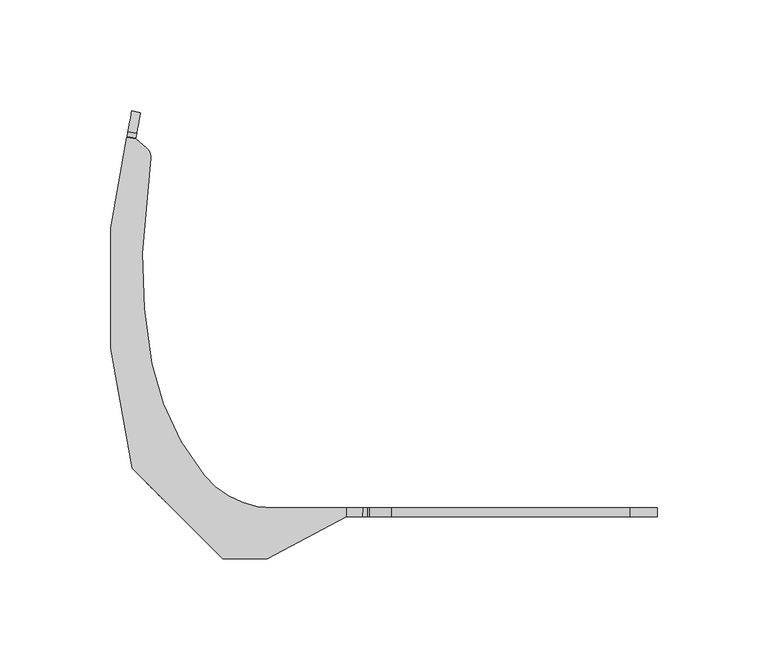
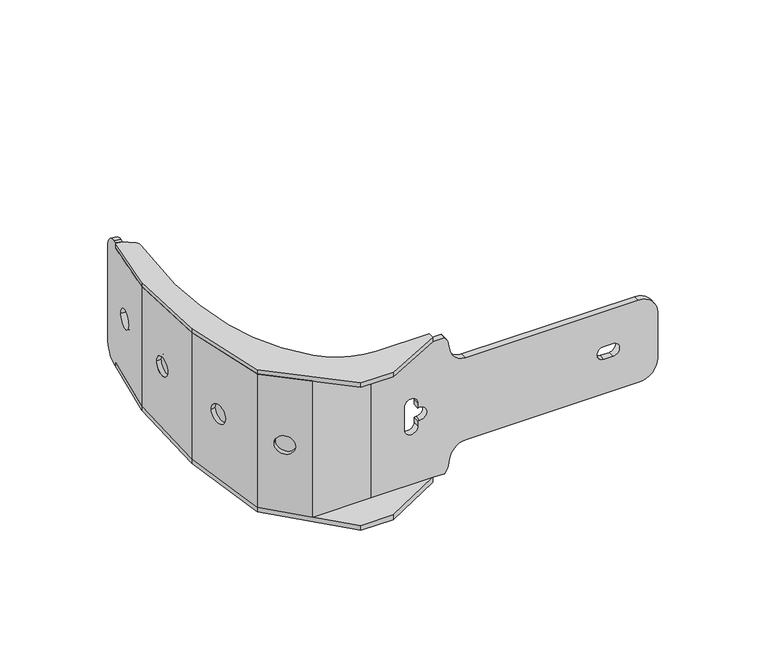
"""IFC4 building model written with IfcOpenShell, lengths in millimetres: proxy geometry, d&b U-Series U5 Horizonzal Bracket : d&b U-Series U5 Horizontal Bracket."""

import ifcopenshell
import ifcopenshell.guid

model = None  # the IFC model being written
_history = None  # IfcOwnerHistory: only IFC2X3 demands one
_inside = {}  # id of a spatial element -> (the spatial element, [elements in it])
_under = {}  # id of a project, library or spatial element -> (it, [spatial elements below it])
_declared = {}  # id of a project -> (the project, [libraries it declares])
_typed = {}  # id of a type object -> (the type object, [elements of that type])
_made_of = {}  # id of a material, layer set ... -> (it, [elements and type objects made of it])


def new_model(schema):
    """Start an empty IFC model of exactly this schema.

    Asked for "IFC4X3", IfcOpenShell would pick the latest addendum, in which some entities
    have other attributes; the version numbers below select the first issue.
    IFC2X3 requires an IfcOwnerHistory on every rooted entity: one is made here for all.
    """
    global model, _history
    if schema == "IFC4X3":
        model = ifcopenshell.file(schema_version=(4, 3, 0, 0))
    else:
        model = ifcopenshell.file(schema=schema)
    _inside.clear()
    _under.clear()
    _declared.clear()
    _typed.clear()
    _made_of.clear()
    _history = None
    if model.schema == "IFC2X3":
        org = make("IfcOrganization", Name="unknown")
        user = make(
            "IfcPersonAndOrganization",
            ThePerson=make("IfcPerson", FamilyName="unknown"),
            TheOrganization=org,
        )
        app = make(
            "IfcApplication",
            ApplicationDeveloper=org,
            Version="unknown",
            ApplicationFullName="unknown",
            ApplicationIdentifier="unknown",
        )
        _history = make(
            "IfcOwnerHistory",
            OwningUser=user,
            OwningApplication=app,
            ChangeAction="ADDED",
            CreationDate=0,
        )
    return model


def make(cls, **values):
    """One entity of the class cls with the attributes given. An attribute that is None is left unset."""
    return model.create_entity(
        cls, **{name: value for name, value in values.items() if value is not None}
    )


def rooted(cls, **values):
    """An entity with a GlobalId (a new one), such as an element, a storey or a relation."""
    return make(cls, GlobalId=ifcopenshell.guid.new(), OwnerHistory=_history, **values)


def si_unit(unit_type, name, prefix=None):
    """IfcSIUnit, for example si_unit("LENGTHUNIT", "METRE", prefix="MILLI")."""
    return make("IfcSIUnit", UnitType=unit_type, Prefix=prefix, Name=name)


def assignment(units):
    """IfcUnitAssignment: the units of a project."""
    return None if units is None else make("IfcUnitAssignment", Units=units)


def point(xyz):
    """IfcCartesianPoint."""
    return None if xyz is None else make("IfcCartesianPoint", Coordinates=xyz)


def direction(xyz):
    """IfcDirection."""
    return None if xyz is None else make("IfcDirection", DirectionRatios=xyz)


def frame(location, z_axis=None, x_axis=None):
    """IfcAxis2Placement3D, a coordinate frame: its origin and axes. An axis left out is left unset."""
    return make(
        "IfcAxis2Placement3D",
        Location=point(location),
        Axis=direction(z_axis),
        RefDirection=direction(x_axis),
    )


def frame_2d(location, x_axis=None):
    """IfcAxis2Placement2D, a coordinate frame in the plane: its origin and x axis."""
    return make(
        "IfcAxis2Placement2D", Location=point(location), RefDirection=direction(x_axis)
    )


def origin():
    """The frame at (0, 0, 0) with its axes left unset."""
    return frame((0.0, 0.0, 0.0))


def place(relative_to, where):
    """IfcLocalPlacement: puts the frame where relative to a parent placement (None: the world)."""
    return make(
        "IfcLocalPlacement", PlacementRelTo=relative_to, RelativePlacement=where
    )


def context(
    kind, dimensions, precision=None, world=None, true_north=None, identifier=None
):
    """IfcGeometricRepresentationContext, for example the 3D "Model" context."""
    return make(
        "IfcGeometricRepresentationContext",
        ContextIdentifier=identifier,
        ContextType=kind,
        CoordinateSpaceDimension=dimensions,
        Precision=precision,
        WorldCoordinateSystem=world,
        TrueNorth=true_north,
    )


def project(units=None, contexts=None):
    """IfcProject with its units and contexts."""
    return rooted(
        "IfcProject",
        Name="project",
        RepresentationContexts=contexts,
        UnitsInContext=assignment(units),
    )


def spatial(cls, under=None, at=None, **own):
    """A site, building, storey or space (cls), placed at a placement, below another one or the project."""
    s = rooted(cls, ObjectPlacement=at, **own)
    if under is not None:
        _under.setdefault(under.id(), (under, []))[1].append(s)
    return s


def polyline(points):
    """IfcPolyline through the points."""
    return make("IfcPolyline", Points=[point(p) for p in points])


def circle_curve(where, radius):
    """IfcCircle in the frame where."""
    return make("IfcCircle", Position=where, Radius=radius)


def ellipse_curve(where, semi_axis1, semi_axis2):
    """IfcEllipse in the frame where."""
    return make(
        "IfcEllipse", Position=where, SemiAxis1=semi_axis1, SemiAxis2=semi_axis2
    )


def trimmed(basis, trim1, trim2, sense, master):
    """IfcTrimmedCurve: the piece of a basis curve between two trims."""
    return make(
        "IfcTrimmedCurve",
        BasisCurve=basis,
        Trim1=trim1,
        Trim2=trim2,
        SenseAgreement=sense,
        MasterRepresentation=master,
    )


def segment(curve, same_sense, transition):
    """IfcCompositeCurveSegment."""
    return make(
        "IfcCompositeCurveSegment",
        Transition=transition,
        SameSense=same_sense,
        ParentCurve=curve,
    )


def composite_curve(segments, self_intersect=None):
    """IfcCompositeCurve: segments joined end to end."""
    return make("IfcCompositeCurve", Segments=segments, SelfIntersect=self_intersect)


def outline(outer, holes=None, kind="AREA"):
    """IfcArbitraryClosedProfileDef: a profile drawn as a closed curve; with holes, ...WithVoids."""
    if holes is None:
        return make("IfcArbitraryClosedProfileDef", ProfileType=kind, OuterCurve=outer)
    return make(
        "IfcArbitraryProfileDefWithVoids",
        ProfileType=kind,
        OuterCurve=outer,
        InnerCurves=holes,
    )


def extrude(swept, where, along, depth):
    """IfcExtrudedAreaSolid: the profile swept, set in the frame where, extruded along a direction by depth."""
    return make(
        "IfcExtrudedAreaSolid",
        SweptArea=swept,
        Position=where,
        ExtrudedDirection=direction(along),
        Depth=depth,
    )


def shape(context_of_items, identifier, shape_type, items):
    """IfcShapeRepresentation: the items that make up one representation, for example the "Body"."""
    return make(
        "IfcShapeRepresentation",
        ContextOfItems=context_of_items,
        RepresentationIdentifier=identifier,
        RepresentationType=shape_type,
        Items=items,
    )


def source(mapping_origin, context_of_items, identifier, shape_type, items):
    """IfcRepresentationMap: a shape defined once, which mapped items show again and again."""
    return make(
        "IfcRepresentationMap",
        MappingOrigin=mapping_origin,
        MappedRepresentation=shape(context_of_items, identifier, shape_type, items),
    )


def transform(
    local_origin,
    x_axis=None,
    y_axis=None,
    z_axis=None,
    scale=None,
    scale2=None,
    scale3=None,
    uniform=True,
):
    """IfcCartesianTransformationOperator3D, or its non-uniform kind. x_axis, y_axis, z_axis: its Axis1, 2, 3."""
    if uniform:
        return make(
            "IfcCartesianTransformationOperator3D",
            Axis1=direction(x_axis),
            Axis2=direction(y_axis),
            LocalOrigin=point(local_origin),
            Scale=scale,
            Axis3=direction(z_axis),
        )
    return make(
        "IfcCartesianTransformationOperator3DnonUniform",
        Axis1=direction(x_axis),
        Axis2=direction(y_axis),
        LocalOrigin=point(local_origin),
        Scale=scale,
        Axis3=direction(z_axis),
        Scale2=scale2,
        Scale3=scale3,
    )


def mapped(mapping_source, mapping_target):
    """IfcMappedItem: shows the shape of a source again, moved by a transform."""
    return make(
        "IfcMappedItem", MappingSource=mapping_source, MappingTarget=mapping_target
    )


def made_of(thing, what):
    """Note that an element or type object is made of a material, layer set ...; save() writes the relation."""
    if what is not None:
        _made_of.setdefault(what.id(), (what, []))[1].append(thing)
    return thing


def element(
    cls,
    number,
    at=None,
    inside=None,
    cuts=None,
    type_object=None,
    material=None,
    context=None,
    identifier="Body",
    shape_type=None,
    held_by="IfcProductDefinitionShape",
    body=None,
    shapes=None,
    **own,
):
    """One element of the class cls, such as IfcWall. Its Tag is "e" and its number.

    at: its placement. inside: the storey or other place that contains it. cuts: it is an
    opening in that element (IfcRelVoidsElement). A single representation is given by context,
    identifier, shape_type and body (its items); several are given by shapes. held_by: the class
    of the entity that holds the representations. save() writes the other relations.
    """
    e = rooted(cls, Tag="e%d" % number, ObjectPlacement=at, **own)
    if body is not None:
        shapes = [shape(context, identifier, shape_type, body)]
    if shapes is not None:
        e.Representation = make(held_by, Representations=shapes)
    if inside is not None:
        _inside.setdefault(inside.id(), (inside, []))[1].append(e)
    if cuts is not None:
        rooted(
            "IfcRelVoidsElement", RelatingBuildingElement=cuts, RelatedOpeningElement=e
        )
    if type_object is not None:
        _typed.setdefault(type_object.id(), (type_object, []))[1].append(e)
    return made_of(e, material)


def aggregate(whole, parts):
    """IfcRelAggregates: a whole, such as a stair, and the parts it consists of."""
    return rooted("IfcRelAggregates", RelatingObject=whole, RelatedObjects=parts)


def save(model, path):
    """Write the relations noted so far, then the file.

    IfcRelAggregates (storeys below a building ...), IfcRelContainedInSpatialStructure (elements
    in a storey), IfcRelDefinesByType, IfcRelAssociatesMaterial and IfcRelDeclares: one each for
    every whole, place, type object, material and project.
    """
    for whole, parts in _under.values():
        aggregate(whole, parts)
    for where, things in _inside.values():
        rooted(
            "IfcRelContainedInSpatialStructure",
            RelatedElements=things,
            RelatingStructure=where,
        )
    for kind, things in _typed.values():
        rooted("IfcRelDefinesByType", RelatedObjects=things, RelatingType=kind)
    for what, things in _made_of.values():
        rooted("IfcRelAssociatesMaterial", RelatedObjects=things, RelatingMaterial=what)
    for by, libraries in _declared.values():
        rooted("IfcRelDeclares", RelatingContext=by, RelatedDefinitions=libraries)
    model.write(path)


def plane_surface(at):
    """IfcPlane: the flat surface through the origin of the frame at, square to its z axis."""
    return make("IfcPlane", Position=at)


def cylinder_surface(at, radius):
    """IfcCylindricalSurface: all points at the distance radius from the z axis of the frame at."""
    return make("IfcCylindricalSurface", Position=at, Radius=radius)


def revolved_surface(curve, axis_point, axis_direction):
    """IfcSurfaceOfRevolution: the curve turned about the line through axis_point along axis_direction."""
    return make(
        "IfcSurfaceOfRevolution",
        SweptCurve=make("IfcArbitraryOpenProfileDef", ProfileType="CURVE", Curve=curve),
        AxisPosition=make("IfcAxis1Placement", Location=point(axis_point), Axis=direction(axis_direction)),
    )


def advanced_brep(points, edges, surfaces, faces):
    """IfcAdvancedBrep: a solid bounded by faces that lie on surfaces and meet in shared edges.

    An edge is (start, end): straight between two places in points (the first is 0);
    or (start, end, curve); or (start, end, curve, False) where it runs against its curve.
    A face is (place in surfaces, loops), or (place, loops, False) where it looks against
    its surface's normal. A loop lists edges by number (the first is 1), with a minus sign
    where the edge is run from its end to its start. The first loop is the outer one.
    """
    corners = [point(p) for p in points]
    vertices = [make("IfcVertexPoint", VertexGeometry=c) for c in corners]
    made = []
    for start, end, *more in edges:
        made.append(
            make(
                "IfcEdgeCurve",
                EdgeStart=vertices[start],
                EdgeEnd=vertices[end],
                EdgeGeometry=more[0] if more else make("IfcPolyline", Points=[corners[start], corners[end]]),
                SameSense=more[1] if len(more) > 1 else True,
            )
        )
    hull = []
    for where, loops, *sense in faces:
        bounds = []
        for j, loop in enumerate(loops):
            ring = [make("IfcOrientedEdge", EdgeElement=made[abs(k) - 1], Orientation=k > 0) for k in loop]
            bounds.append(
                make(
                    "IfcFaceOuterBound" if j == 0 else "IfcFaceBound",
                    Bound=make("IfcEdgeLoop", EdgeList=ring),
                    Orientation=True,
                )
            )
        hull.append(make("IfcAdvancedFace", Bounds=bounds, FaceSurface=surfaces[where], SameSense=sense[0] if sense else True))
    return make("IfcAdvancedBrep", Outer=make("IfcClosedShell", CfsFaces=hull))


def communication_devices_53e6d59a(model_context):
    return source(origin(), model_context, "Body", "SolidModel", [
        extrude(outline(composite_curve([segment(polyline([(22.2044879, 0.0), (-38.3705429, 0.0)]), True, "CONTINUOUS"), segment(trimmed(circle_curve(frame_2d((-38.3705429, 10.0)), 10.0), [point((-38.3705429, 0.0))], [point((-48.3616514, 9.5783948))], False, "CARTESIAN"), True, "CONTINUOUS"), segment(polyline([(-48.3616514, 9.5783948), (-48.4584013, 11.8711552), (-45.4610682, 11.999588), (-47.2200383, 53.683288), (31.0539833, 53.683288), (29.2950132, 11.999588), (32.2923463, 11.8711552), (32.1955964, 9.5783948)]), True, "CONTINUOUS"), segment(trimmed(circle_curve(frame_2d((22.2044879, 10.0)), 10.0), [point((32.1955964, 9.5783948))], [point((22.2044879, 0.0))], False, "CARTESIAN"), True, "CONTINUOUS")], self_intersect=False), holes=[composite_curve([segment(trimmed(circle_curve(frame_2d((-8.0830275, 26.735596)), 6.0), [point((-8.0830275, 20.735596))], [point((-8.0830275, 32.735596))], True, "CARTESIAN"), True, "CONTINUOUS"), segment(trimmed(circle_curve(frame_2d((-8.0830275, 26.735596)), 6.0), [point((-8.0830275, 32.735596))], [point((-8.0830275, 20.735596))], True, "CARTESIAN"), True, "CONTINUOUS")], self_intersect=False)]), frame((-142.0489899, 59.1784835, -8.0830275), z_axis=(-0.9848077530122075, 0.17364817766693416, 0.0), x_axis=(0.0, 0.0, -1.0)), (0.0, 0.0, 1.0), 4.0),
        advanced_brep(
        [(-87.8236765, -119.0, -44.5362151), (-122.25, -119.0, -44.5362151), (-122.25, -119.0, 44.5362151), (-87.8236765, -119.0, 44.5362151), (-123.9068542, -123.0, -44.7076112), (-87.8236765, -123.0, -44.7076112), (-87.8236765, -123.0, 44.7076112), (-123.9068542, -123.0, 44.7076112), (-142.0489899, -99.2010101, -43.6878481), (-142.0489899, -99.2010101, 43.6878481), (-151.310226, -46.67793, -41.4372863), (-151.310226, -46.67793, 41.4372863), (-151.310226, 6.3000501, -39.1672326), (-151.310226, 6.3000501, 39.1672326), (-155.310226, 7.005358, -39.1370108), (-155.310226, -47.0278846, -41.4522815), (-155.310226, -47.0278846, 41.4522815), (-155.310226, 7.005358, 39.1370108), (-155.310226, -20.9926157, 0.0), (-155.310226, -8.9926157, 0.0), (-145.7692166, -101.1376376, -43.7708307), (-145.7692166, -101.1376376, 43.7708307), (-150.4197085, -74.7633878, 0.0), (-152.5034866, -62.9456948, 0.0), (-139.2286947, -107.6781595, 0.0), (-130.7434133, -116.1634409, 0.0), (-152.310226, -8.9926157, 0.0), (-152.310226, -20.9926157, 0.0), (-149.5490633, -62.4247503, 0.0), (-147.4652852, -74.2424433, 0.0), (-128.622093, -114.0421206, 0.0), (-137.1073744, -105.5568392, 0.0)],
        [
            (0, 1),
            (1, 2),
            (2, 3),
            (3, 0),
            (4, 5),
            (5, 6),
            (6, 7),
            (7, 4),
            (3, 6),
            (5, 0),
            (1, 8),
            (8, 9),
            (9, 2),
            (8, 10),
            (10, 11),
            (11, 9),
            (10, 12),
            (12, 13),
            (13, 11),
            (14, 15),
            (15, 16),
            (16, 17),
            (17, 14),
            (18, 19, circle_curve(frame((-155.310226, -14.9926157, 0.0), z_axis=(1.0, 0.0, 0.0), x_axis=(0.0, -1.0, 0.0)), 6.0)),
            (19, 18, circle_curve(frame((-155.310226, -14.9926157, 0.0), z_axis=(1.0, 0.0, 0.0), x_axis=(0.0, -1.0, 0.0)), 6.0)),
            (15, 20),
            (20, 21),
            (21, 16),
            (22, 23, circle_curve(frame((-151.4615975, -68.8545413, 0.0), z_axis=(0.9848077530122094, 0.17364817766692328, 0.0), x_axis=(0.17364817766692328, -0.9848077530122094, 0.0)), 6.0)),
            (23, 22, circle_curve(frame((-151.4615975, -68.8545413, 0.0), z_axis=(0.9848077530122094, 0.17364817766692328, 0.0), x_axis=(0.17364817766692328, -0.9848077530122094, 0.0)), 6.0)),
            (7, 21),
            (20, 4),
            (24, 25, circle_curve(frame((-134.986054, -111.9208002, 0.0), z_axis=(0.7071067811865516, 0.7071067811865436, 0.0), x_axis=(-0.7071067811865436, 0.7071067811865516, 0.0)), 6.0)),
            (25, 24, circle_curve(frame((-134.986054, -111.9208002, 0.0), z_axis=(0.7071067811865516, 0.7071067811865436, 0.0), x_axis=(-0.7071067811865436, 0.7071067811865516, 0.0)), 6.0)),
            (14, 12),
            (13, 17),
            (26, 27, circle_curve(frame((-152.310226, -14.9926157, 0.0), z_axis=(-1.0, 0.0, 0.0), x_axis=(0.0, -1.0, 0.0)), 6.0)),
            (27, 26, circle_curve(frame((-152.310226, -14.9926157, 0.0), z_axis=(-1.0, 0.0, 0.0), x_axis=(0.0, -1.0, 0.0)), 6.0)),
            (27, 18),
            (19, 26),
            (28, 29, circle_curve(frame((-148.5071743, -68.3335968, 0.0), z_axis=(-0.9848077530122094, -0.17364817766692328, 0.0), x_axis=(0.17364817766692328, -0.9848077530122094, 0.0)), 6.0)),
            (29, 28, circle_curve(frame((-148.5071743, -68.3335968, 0.0), z_axis=(-0.9848077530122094, -0.17364817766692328, 0.0), x_axis=(0.17364817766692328, -0.9848077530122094, 0.0)), 6.0)),
            (29, 22),
            (23, 28),
            (30, 31, circle_curve(frame((-132.8647337, -109.7994799, 0.0), z_axis=(-0.7071067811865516, -0.7071067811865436, 0.0), x_axis=(-0.7071067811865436, 0.7071067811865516, 0.0)), 6.0)),
            (31, 30, circle_curve(frame((-132.8647337, -109.7994799, 0.0), z_axis=(-0.7071067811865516, -0.7071067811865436, 0.0), x_axis=(-0.7071067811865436, 0.7071067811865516, 0.0)), 6.0)),
            (31, 24),
            (25, 30),
        ],
        [
            plane_surface(frame((-87.8236765, -119.0, -45.0), z_axis=(0.0, 1.0, 0.0), x_axis=(0.0, 0.0, 1.0))),
            plane_surface(frame((-123.9068542, -123.0, -45.0), z_axis=(0.0, -1.0, 0.0), x_axis=(0.0, 0.0, 1.0))),
            plane_surface(frame((-87.8236765, -123.0, -45.0), z_axis=(1.0, 0.0, 0.0), x_axis=(0.0, 0.0, 1.0))),
            plane_surface(frame((-122.25, -119.0, -45.0), z_axis=(0.7071067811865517, 0.7071067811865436, 0.0), x_axis=(0.0, 0.0, 1.0))),
            plane_surface(frame((-142.0489899, -99.2010101, -45.0), z_axis=(0.9848077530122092, 0.17364817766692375, 0.0), x_axis=(0.0, 0.0, 1.0))),
            plane_surface(frame((-151.310226, -46.67793, -45.0), z_axis=(1.0, 0.0, 0.0), x_axis=(0.0, 0.0, 1.0))),
            plane_surface(frame((-155.310226, 7.005358, -45.0), z_axis=(-1.0, 0.0, 0.0), x_axis=(0.0, 0.0, 1.0))),
            plane_surface(frame((-155.310226, -47.0278846, -45.0), z_axis=(-0.9848077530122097, -0.1736481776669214, 0.0), x_axis=(0.0, 0.0, 1.0))),
            plane_surface(frame((-145.7692166, -101.1376376, -45.0), z_axis=(-0.7071067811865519, -0.7071067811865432, 0.0), x_axis=(0.0, 0.0, 1.0))),
            plane_surface(frame((-32.0280223, -124.4876692, -44.7713563), z_axis=(0.0, 0.04280972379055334, -0.999083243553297), x_axis=(-1.0, 0.0, 0.0))),
            plane_surface(frame((-32.0280223, 97.9347514, 35.2407767), z_axis=(0.0, 0.042809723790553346, 0.999083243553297), x_axis=(-1.0, 0.0, 0.0))),
            plane_surface(frame((-151.310226, 6.3000501, -45.0), z_axis=(0.17364817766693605, 0.9848077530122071, 0.0), x_axis=(0.0, 0.0, 1.0))),
            plane_surface(frame((-152.310226, -20.9926157, 0.0), z_axis=(-1.0, 0.0, 0.0), x_axis=(0.0, 0.0, 1.0))),
            revolved_surface(polyline([(-155.310226, -20.9926157, 0.0), (-152.310226, -20.9926157, 0.0)]), (-152.310226, -14.9926157, 0.0), (-1.0, 0.0, 0.0)),
            plane_surface(frame((-147.4652852, -74.2424433, 0.0), z_axis=(-0.9848077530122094, -0.17364817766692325, 0.0), x_axis=(0.0, 0.0, 1.0))),
            revolved_surface(polyline([(-150.41970849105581, -74.76338785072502, 0.0), (-147.4652851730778, -74.2424433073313, 0.0)]), (-148.5071743, -68.3335968, 0.0), (-0.9848077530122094, -0.17364817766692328, 0.0)),
            plane_surface(frame((-137.1073744, -105.5568392, 0.0), z_axis=(-0.7071067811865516, -0.7071067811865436, 0.0), x_axis=(0.0, 0.0, -1.0))),
            revolved_surface(polyline([(-139.22869468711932, -107.67815951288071, 0.0), (-137.10737438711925, -105.55683921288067, 0.0)]), (-132.8647337, -109.7994799, 0.0), (-0.7071067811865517, -0.7071067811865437, 0.0)),
        ],
        [
            (0, [[1, 2, 3, 4]]),
            (1, [[5, 6, 7, 8]]),
            (2, [[9, -6, 10, -4]]),
            (3, [[11, 12, 13, -2]]),
            (4, [[14, 15, 16, -12]]),
            (5, [[17, 18, 19, -15]]),
            (6, [[20, 21, 22, 23], [24, 25]]),
            (7, [[26, 27, 28, -21], [29, 30]]),
            (8, [[31, -27, 32, -8], [33, 34]]),
            (9, [[-10, -5, -32, -26, -20, 35, -17, -14, -11, -1]]),
            (10, [[-13, -16, -19, 36, -22, -28, -31, -7, -9, -3]]),
            (11, [[-36, -18, -35, -23]]),
            (12, [[37, 38]]),
            (13, [[39, -25, 40, -38]]),
            (13, [[-40, -24, -39, -37]]),
            (14, [[41, 42]]),
            (15, [[43, -30, 44, -42]]),
            (15, [[-44, -29, -43, -41]]),
            (16, [[45, 46]]),
            (17, [[47, -34, 48, -46]]),
            (17, [[-48, -33, -47, -45]]),
        ],
    ),
        advanced_brep(
        [(-87.8236765, -119.0, -44.5362151), (-87.8236765, -123.0, -44.7076112), (-87.8236765, -123.0, 44.7076112), (-87.8236765, -119.0, 44.5362151), (57.25, -119.0, -4.15), (57.25, -123.0, -4.15), (62.75, -123.0, -4.15), (62.75, -119.0, -4.15), (57.25, -119.0, 4.15), (57.25, -123.0, 4.15), (62.75, -119.0, 4.15), (62.75, -123.0, 4.15), (-58.5058298, -119.0, 7.5791762), (-58.5058298, -123.0, 7.5791762), (-66.6684352, -123.0, 7.5791762), (-66.6684352, -119.0, 7.5791762), (-58.5058298, -119.0, 4.15), (-58.5058298, -123.0, 4.15), (-57.25, -119.0, 4.15), (-57.25, -123.0, 4.15), (-57.25, -119.0, -4.15), (-57.25, -123.0, -4.15), (-58.5058298, -119.0, -4.15), (-58.5058298, -123.0, -4.15), (-58.5058298, -119.0, -7.5791762), (-58.5058298, -123.0, -7.5791762), (-66.6684352, -119.0, -7.5791762), (-66.6684352, -123.0, -7.5791762), (-105.0401962, -141.8666581, 45.5160287), (-145.7692166, -101.1376376, 43.7708307), (-155.310226, -47.0278846, 41.4522815), (-155.310226, 7.005358, 39.1370108), (-148.0931205, 47.9355971, 37.3831908), (-144.1562038, 47.2414125, 37.4129359), (-139.2015706, 43.0891152, 37.5908577), (-137.4734629, 38.4828483, 37.7882316), (-141.179069, -4.2361969, 39.6187003), (-136.8212819, -54.0459318, 41.7529979), (-113.2321441, -104.3171119, 43.907068), (-82.2637111, -119.0, 44.5362151), (-49.2806528, -123.0, 44.7076112), (-84.7962351, -141.8666581, 45.5160287), (-84.7962351, -141.8666581, 48.5187815), (-49.2806528, -123.0, 47.710364), (-49.2806528, -119.0, 47.5389679), (-82.2637111, -119.0, 47.5389679), (-113.2321441, -104.3171119, 46.9098208), (-136.8212819, -54.0459318, 44.7557507), (-141.179069, -4.2361969, 42.6214531), (-137.4734629, 38.4828483, 40.7909844), (-139.2015706, 43.0891152, 40.5936105), (-144.1562038, 47.2414125, 40.4156887), (-148.0931205, 47.9355971, 40.3859435), (-155.310226, 7.005358, 42.1397636), (-155.310226, -47.0278846, 44.4550343), (-145.7692166, -101.1376376, 46.7735835), (-105.0401962, -141.8666581, 48.5187815), (-49.2806528, -119.0, 44.5362151), (-41.7232058, -119.0, 44.5362151), (-39.5397054, -119.0, 39.9855647), (-38.7070812, -119.0, 35.2635182), (-28.8590037, -119.0, 27.0), (78.75, -119.0, 27.0), (90.75, -119.0, 15.0), (90.75, -119.0, -14.9794514), (78.7294514, -119.0, -27.0), (-28.8590037, -119.0, -27.0), (-38.7070812, -119.0, -35.2635182), (-39.5397054, -119.0, -39.9855647), (-41.7232058, -119.0, -44.5362151), (-49.2806528, -119.0, -44.5362151), (-49.2806528, -119.0, -47.5389679), (-82.2637111, -119.0, -47.5389679), (-82.2637111, -119.0, -44.5362151), (-39.5397054, -123.0, 39.9855647), (-41.8773722, -123.0, 44.7076112), (-49.2806528, -123.0, -44.7076112), (-41.8773722, -123.0, -44.7076112), (-39.5397054, -123.0, -39.9855647), (-38.7070812, -123.0, -35.2635182), (-28.8590037, -123.0, -27.0), (78.7294514, -123.0, -27.0), (90.75, -123.0, -14.9794514), (90.75, -123.0, 15.0), (78.75, -123.0, 27.0), (-28.8590037, -123.0, 27.0), (-38.7070812, -123.0, 35.2635182), (-105.0401962, -141.8666581, -48.5187815), (-84.7962351, -141.8666581, -48.5187815), (-84.7962351, -141.8666581, -45.5160287), (-105.0401962, -141.8666581, -45.5160287), (-49.2806528, -123.0, -47.710364), (-113.2321441, -104.3171119, -46.9098208), (-113.2321441, -104.3171119, -43.907068), (-136.8212819, -54.0459318, -44.7557507), (-136.8212819, -54.0459318, -41.7529979), (-141.179069, -4.2361969, -42.6214531), (-141.179069, -4.2361969, -39.6187003), (-137.4734629, 38.4828483, -40.7909844), (-137.4734629, 38.4828483, -37.7882316), (-148.0931205, 47.9355971, -40.3859435), (-155.310226, 7.005358, -42.1397636), (-155.310226, 7.005358, -39.1370108), (-148.0931205, 47.9355971, -37.3831908), (-155.310226, -47.0278846, -44.4550343), (-155.310226, -47.0278846, -41.4522815), (-145.7692166, -101.1376376, -46.7735835), (-145.7692166, -101.1376376, -43.7708307), (-139.2015706, 43.0891152, -40.5936105), (-139.2015706, 43.0891152, -37.5908577), (-144.1562038, 47.2414125, -40.4156887), (-144.1562038, 47.2414125, -37.4129359)],
        [
            (0, 1),
            (1, 2),
            (2, 3),
            (3, 0),
            (4, 5),
            (5, 6),
            (6, 7),
            (7, 4),
            (8, 9),
            (9, 5, circle_curve(frame((57.25, -123.0, 0.0), z_axis=(0.0, -1.0, 0.0), x_axis=(-1.0, 0.0, 0.0)), 4.15)),
            (4, 8, circle_curve(frame((57.25, -119.0, 0.0), z_axis=(0.0, 1.0, 0.0), x_axis=(-1.0, 0.0, 0.0)), 4.15)),
            (10, 11),
            (11, 9),
            (8, 10),
            (6, 11, circle_curve(frame((62.75, -123.0, 0.0), z_axis=(0.0, -1.0, 0.0), x_axis=(-1.0, 0.0, 0.0)), 4.15)),
            (10, 7, circle_curve(frame((62.75, -119.0, 0.0), z_axis=(0.0, 1.0, 0.0), x_axis=(-1.0, 0.0, 0.0)), 4.15)),
            (12, 13),
            (13, 14, circle_curve(frame((-62.5871325, -123.0, 7.5791762), z_axis=(0.0, -1.0, 0.0), x_axis=(1.0, 0.0, 0.0)), 4.0813027)),
            (14, 15),
            (15, 12, circle_curve(frame((-62.5871325, -119.0, 7.5791762), z_axis=(0.0, 1.0, 0.0), x_axis=(1.0, 0.0, 0.0)), 4.0813027)),
            (16, 17),
            (17, 13),
            (12, 16),
            (18, 19),
            (19, 17),
            (16, 18),
            (20, 21),
            (21, 19, circle_curve(frame((-57.25, -123.0, 0.0), z_axis=(0.0, -1.0, 0.0), x_axis=(0.0, 0.0, -1.0)), 4.15)),
            (18, 20, circle_curve(frame((-57.25, -119.0, 0.0), z_axis=(0.0, 1.0, 0.0), x_axis=(0.0, 0.0, -1.0)), 4.15)),
            (22, 23),
            (23, 21),
            (20, 22),
            (24, 25),
            (25, 23),
            (22, 24),
            (26, 27),
            (27, 25, circle_curve(frame((-62.5871325, -123.0, -7.5791762), z_axis=(0.0, -1.0, 0.0), x_axis=(1.0, 0.0, 0.0)), 4.0813027)),
            (24, 26, circle_curve(frame((-62.5871325, -119.0, -7.5791762), z_axis=(0.0, 1.0, 0.0), x_axis=(1.0, 0.0, 0.0)), 4.0813027)),
            (14, 27),
            (26, 15),
            (28, 29),
            (29, 30),
            (30, 31),
            (31, 32),
            (32, 33),
            (33, 34),
            (34, 35, ellipse_curve(frame((-142.4131779, 39.2569386, 37.7550626), z_axis=(0.0, -0.04280972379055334, -0.999083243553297), x_axis=(0.0, 0.9990832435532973, -0.04280972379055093)), 5.004588, 5.0)),
            (35, 36, ellipse_curve(frame((170.1175119, -9.7189581, 39.8536311), z_axis=(0.0, 0.04280972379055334, 0.999083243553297), x_axis=(0.0, -0.9990832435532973, 0.04280972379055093)), 311.6305495, 311.3448602)),
            (36, 37, ellipse_curve(frame((97.595238, -8.4416479, 39.7988997), z_axis=(0.0, 0.04280972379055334, 0.999083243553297), x_axis=(0.0, -0.9990832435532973, 0.04280972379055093)), 239.0304714, 238.8113387)),
            (37, 38, ellipse_curve(frame((-25.1695906, -32.3247859, 40.8222684), z_axis=(0.0, 0.04280972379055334, 0.999083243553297), x_axis=(0.0, -0.9990832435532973, 0.04280972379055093)), 113.8492988, 113.7449267)),
            (38, 39, ellipse_curve(frame((-82.2637111, -79.0, 42.8222549), z_axis=(0.0, 0.04280972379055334, 0.999083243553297), x_axis=(0.0, -0.9990832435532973, 0.04280972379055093)), 40.0367039, 40.0)),
            (39, 3),
            (2, 40),
            (40, 41),
            (41, 28),
            (42, 43),
            (43, 44),
            (44, 45),
            (45, 46, ellipse_curve(frame((-82.2637111, -79.0, 45.8250077), z_axis=(0.0, -0.04280972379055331, -0.999083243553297), x_axis=(0.0, -0.9990832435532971, 0.04280972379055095)), 40.0367039, 40.0)),
            (46, 47, ellipse_curve(frame((-25.1695906, -32.3247859, 43.8250212), z_axis=(0.0, -0.04280972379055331, -0.999083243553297), x_axis=(0.0, -0.9990832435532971, 0.04280972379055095)), 113.8492988, 113.7449267)),
            (47, 48, ellipse_curve(frame((97.595238, -8.4416479, 42.8016524), z_axis=(0.0, -0.04280972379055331, -0.999083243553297), x_axis=(0.0, -0.9990832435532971, 0.04280972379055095)), 239.0304714, 238.8113387)),
            (48, 49, ellipse_curve(frame((170.1175119, -9.7189581, 42.8563839), z_axis=(0.0, -0.04280972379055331, -0.999083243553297), x_axis=(0.0, -0.9990832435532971, 0.04280972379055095)), 311.6305495, 311.3448602)),
            (49, 50, ellipse_curve(frame((-142.4131779, 39.2569386, 40.7578154), z_axis=(0.0, 0.04280972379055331, 0.999083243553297), x_axis=(0.0, 0.9990832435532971, -0.04280972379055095)), 5.004588, 5.0)),
            (50, 51),
            (51, 52),
            (52, 53),
            (53, 54),
            (54, 55),
            (55, 56),
            (56, 42),
            (41, 42),
            (56, 28),
            (40, 43),
            (57, 58),
            (58, 59, circle_curve(frame((-48.7628359, -119.0, 38.3592779), z_axis=(0.0, 1.0, 0.0), x_axis=(1.0, 0.0, 0.0)), 9.3654121)),
            (59, 60),
            (60, 61, circle_curve(frame((-28.8590037, -119.0, 37.0), z_axis=(0.0, -1.0, 0.0), x_axis=(1.0, 0.0, 0.0)), 10.0)),
            (61, 62),
            (62, 63, circle_curve(frame((78.75, -119.0, 15.0), z_axis=(0.0, 1.0, 0.0), x_axis=(1.0, 0.0, 0.0)), 12.0)),
            (63, 64),
            (64, 65, circle_curve(frame((78.7294514, -119.0, -14.9794514), z_axis=(0.0, 1.0, 0.0), x_axis=(1.0, 0.0, 0.0)), 12.0205486)),
            (65, 66),
            (66, 67, circle_curve(frame((-28.8590037, -119.0, -37.0), z_axis=(0.0, -1.0, 0.0), x_axis=(1.0, 0.0, 0.0)), 10.0)),
            (67, 68),
            (68, 69, circle_curve(frame((-48.7628359, -119.0, -38.3592779), z_axis=(0.0, 1.0, 0.0), x_axis=(1.0, 0.0, 0.0)), 9.3654121)),
            (69, 70),
            (70, 71),
            (71, 72),
            (72, 73),
            (73, 0),
            (39, 45),
            (44, 57),
            (38, 46),
            (37, 47),
            (36, 48),
            (35, 49),
            (34, 50),
            (33, 51),
            (31, 53),
            (52, 32),
            (30, 54),
            (29, 55),
            (74, 75, circle_curve(frame((-48.7628359, -123.0, 38.3592779), z_axis=(0.0, -1.0, 0.0), x_axis=(1.0, 0.0, 0.0)), 9.3654121)),
            (75, 40),
            (1, 76),
            (76, 77),
            (77, 78, circle_curve(frame((-48.7628359, -123.0, -38.3592779), z_axis=(0.0, -1.0, 0.0), x_axis=(1.0, 0.0, 0.0)), 9.3654121)),
            (78, 79),
            (79, 80, circle_curve(frame((-28.8590037, -123.0, -37.0), z_axis=(0.0, 1.0, 0.0), x_axis=(1.0, 0.0, 0.0)), 10.0)),
            (80, 81),
            (81, 82, circle_curve(frame((78.7294514, -123.0, -14.9794514), z_axis=(0.0, -1.0, 0.0), x_axis=(1.0, 0.0, 0.0)), 12.0205486)),
            (82, 83),
            (83, 84, circle_curve(frame((78.75, -123.0, 15.0), z_axis=(0.0, -1.0, 0.0), x_axis=(1.0, 0.0, 0.0)), 12.0)),
            (84, 85),
            (85, 86, circle_curve(frame((-28.8590037, -123.0, 37.0), z_axis=(0.0, 1.0, 0.0), x_axis=(1.0, 0.0, 0.0)), 10.0)),
            (86, 74),
            (67, 79),
            (78, 68),
            (66, 80),
            (65, 81),
            (64, 82),
            (63, 83),
            (62, 84),
            (61, 85),
            (77, 69, ellipse_curve(frame((-48.7628359, 25.1559043, -38.3592779), z_axis=(0.0, -0.04280972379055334, 0.999083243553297), x_axis=(0.0, 0.9990832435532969, 0.04280972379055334)), 218.7683376, 9.3654121)),
            (60, 86),
            (59, 74),
            (58, 75, ellipse_curve(frame((-48.7628359, 25.1559043, 38.3592779), z_axis=(0.0, -0.042809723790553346, -0.999083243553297), x_axis=(0.0, 0.9990832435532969, -0.042809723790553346)), 218.7683376, 9.3654121)),
            (87, 88),
            (88, 89),
            (89, 90),
            (90, 87),
            (88, 91),
            (91, 76),
            (76, 89),
            (72, 92, ellipse_curve(frame((-82.2637111, -79.0, -45.8250077), z_axis=(0.0, 0.04280972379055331, -0.999083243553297), x_axis=(0.0, 0.9990832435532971, 0.04280972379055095)), 40.0367039, 40.0)),
            (92, 93),
            (93, 73, ellipse_curve(frame((-82.2637111, -79.0, -42.8222549), z_axis=(0.0, -0.04280972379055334, 0.999083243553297), x_axis=(0.0, 0.9990832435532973, 0.04280972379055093)), 40.0367039, 40.0)),
            (92, 94, ellipse_curve(frame((-25.1695906, -32.3247859, -43.8250212), z_axis=(0.0, 0.04280972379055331, -0.999083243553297), x_axis=(0.0, 0.9990832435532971, 0.04280972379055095)), 113.8492988, 113.7449267)),
            (94, 95),
            (95, 93, ellipse_curve(frame((-25.1695906, -32.3247859, -40.8222684), z_axis=(0.0, -0.04280972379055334, 0.999083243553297), x_axis=(0.0, 0.9990832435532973, 0.04280972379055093)), 113.8492988, 113.7449267)),
            (94, 96, ellipse_curve(frame((97.595238, -8.4416479, -42.8016524), z_axis=(0.0, 0.04280972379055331, -0.999083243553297), x_axis=(0.0, 0.9990832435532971, 0.04280972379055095)), 239.0304714, 238.8113387)),
            (96, 97),
            (97, 95, ellipse_curve(frame((97.595238, -8.4416479, -39.7988997), z_axis=(0.0, -0.04280972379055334, 0.999083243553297), x_axis=(0.0, 0.9990832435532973, 0.04280972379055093)), 239.0304714, 238.8113387)),
            (96, 98, ellipse_curve(frame((170.1175119, -9.7189581, -42.8563839), z_axis=(0.0, 0.04280972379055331, -0.999083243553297), x_axis=(0.0, 0.9990832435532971, 0.04280972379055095)), 311.6305495, 311.3448602)),
            (98, 99),
            (99, 97, ellipse_curve(frame((170.1175119, -9.7189581, -39.8536311), z_axis=(0.0, -0.04280972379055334, 0.999083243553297), x_axis=(0.0, 0.9990832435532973, 0.04280972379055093)), 311.6305495, 311.3448602)),
            (100, 101),
            (101, 102),
            (102, 103),
            (103, 100),
            (101, 104),
            (104, 105),
            (105, 102),
            (104, 106),
            (106, 107),
            (107, 105),
            (90, 107),
            (106, 87),
            (98, 108, ellipse_curve(frame((-142.4131779, 39.2569386, -40.7578154), z_axis=(0.0, -0.04280972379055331, 0.999083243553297), x_axis=(0.0, -0.9990832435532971, -0.04280972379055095)), 5.004588, 5.0)),
            (108, 109),
            (109, 99, ellipse_curve(frame((-142.4131779, 39.2569386, -37.7550626), z_axis=(0.0, 0.04280972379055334, -0.999083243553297), x_axis=(0.0, -0.9990832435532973, -0.04280972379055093)), 5.004588, 5.0)),
            (108, 110),
            (110, 111),
            (111, 109),
            (103, 111),
            (110, 100),
            (40, 57),
            (76, 70),
            (91, 71),
        ],
        [
            plane_surface(frame((-87.8236765, -119.0, 67.0), z_axis=(-1.0, 0.0, 0.0), x_axis=(0.0, -1.0, 0.0))),
            plane_surface(frame((62.75, -119.0, -4.15), z_axis=(0.0, 0.0, 1.0), x_axis=(0.0, -1.0, 0.0))),
            revolved_surface(polyline([(53.1, -123.0, 0.0), (53.1, -119.0, 0.0)]), (57.25, -119.0, 0.0), (0.0, -1.0, 0.0)),
            plane_surface(frame((57.25, -119.0, 4.15), z_axis=(0.0, 0.0, -1.0), x_axis=(0.0, -1.0, 0.0))),
            revolved_surface(polyline([(58.6, -123.0, 0.0), (58.6, -119.0, 0.0)]), (62.75, -119.0, 0.0), (0.0, -1.0, 0.0)),
            revolved_surface(polyline([(-58.5058298, -123.0, 7.5791762), (-58.5058298, -119.0, 7.5791762)]), (-62.5871325, -119.0, 7.5791762), (0.0, -1.0, 0.0)),
            plane_surface(frame((-58.5058298, -119.0, 7.5791762), z_axis=(-1.0, 0.0, 0.0), x_axis=(0.0, -1.0, 0.0))),
            plane_surface(frame((-58.5058298, -119.0, 4.15), z_axis=(0.0, 0.0, -1.0), x_axis=(0.0, -1.0, 0.0))),
            revolved_surface(polyline([(-57.25, -123.0, -4.15), (-57.25, -119.0, -4.15)]), (-57.25, -119.0, 0.0), (0.0, -1.0, 0.0)),
            plane_surface(frame((-57.25, -119.0, -4.15), z_axis=(0.0, 0.0, 1.0), x_axis=(0.0, -1.0, 0.0))),
            plane_surface(frame((-58.5058298, -119.0, -4.15), z_axis=(-1.0, 0.0, 0.0), x_axis=(0.0, -1.0, 0.0))),
            revolved_surface(polyline([(-58.5058298, -123.0, -7.5791762), (-58.5058298, -119.0, -7.5791762)]), (-62.5871325, -119.0, -7.5791762), (0.0, -1.0, 0.0)),
            plane_surface(frame((-66.6684352, -119.0, -7.5791762), z_axis=(1.0, 0.0, 0.0), x_axis=(0.0, -1.0, 0.0))),
            plane_surface(frame((-19.9571171, -142.6652513, 45.5502476), z_axis=(0.0, -0.04280972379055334, -0.999083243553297), x_axis=(-1.0, 0.0, 0.0))),
            plane_surface(frame((-19.9571171, 59.8730762, 39.8744344), z_axis=(0.0, 0.04280972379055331, 0.999083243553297), x_axis=(-1.0, 0.0, 0.0))),
            plane_surface(frame((-105.0401962, -141.8666581, 35.2635182), z_axis=(0.0, -1.0, 0.0), x_axis=(0.0, 0.0, 1.0))),
            plane_surface(frame((-84.7962351, -141.8666581, 35.2635182), z_axis=(0.46913592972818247, -0.883125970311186, 0.0), x_axis=(0.0, 0.0, 1.0))),
            plane_surface(frame((-49.2806528, -119.0, 35.2635182), z_axis=(0.0, 1.0, 0.0), x_axis=(0.0, 0.0, 1.0))),
            revolved_surface(polyline([(-42.263711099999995, -79.0, 47.538967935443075), (-42.263711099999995, -79.0, 41.10829466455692)]), (-82.2637111, -79.0, 53.7788508), (0.0, 0.0, 1.0)),
            revolved_surface(polyline([(88.57533609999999, -32.3247859, 48.69887823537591), (88.57533609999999, -32.3247859, 35.94841136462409)]), (-25.1695906, -32.3247859, 53.7788508), (0.0, 0.0, 1.0)),
            revolved_surface(polyline([(336.40657669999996, -8.4416479, 53.03448085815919), (336.40657669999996, -8.4416479, 29.566071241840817)]), (97.595238, -8.4416479, 53.7788508), (0.0, 0.0, 1.0)),
            revolved_surface(polyline([(481.46237210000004, -9.7189581, 56.197201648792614), (481.46237210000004, -9.7189581, 26.51281335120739)]), (170.1175119, -9.7189581, 53.7788508), (0.0, 0.0, 1.0)),
            cylinder_surface(frame((-142.4131779, 39.2569386, 53.7788508), z_axis=(0.0, 0.0, -1.0), x_axis=(1.0, 0.0, 0.0)), 5.0),
            plane_surface(frame((-139.2015706, 43.0891152, 35.2635182), z_axis=(0.6423214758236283, 0.7664353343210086, 0.0), x_axis=(0.0, 0.0, 1.0))),
            plane_surface(frame((-148.0931205, 47.9355971, 35.2635182), z_axis=(-0.9848077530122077, 0.17364817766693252, 0.0), x_axis=(0.0, 0.0, 1.0))),
            plane_surface(frame((-155.310226, 7.005358, 35.2635182), z_axis=(-1.0, 0.0, 0.0), x_axis=(0.0, 0.0, 1.0))),
            plane_surface(frame((-155.310226, -47.0278846, 35.2635182), z_axis=(-0.9848077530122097, -0.17364817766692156, 0.0), x_axis=(0.0, 0.0, 1.0))),
            plane_surface(frame((-145.7692166, -101.1376376, 35.2635182), z_axis=(-0.7071067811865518, -0.7071067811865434, 0.0), x_axis=(0.0, 0.0, 1.0))),
            plane_surface(frame((-144.1562038, 47.2414125, 35.2635182), z_axis=(0.17364817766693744, 0.9848077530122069, 0.0), x_axis=(0.0, 0.0, 1.0))),
            plane_surface(frame((-87.8236765, -123.0, -48.8152015), z_axis=(0.0, -1.0, 0.0), x_axis=(0.0, 0.0, 1.0))),
            plane_surface(frame((-39.5397054, -119.0, -39.9855647), z_axis=(0.9848077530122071, 0.0, -0.173648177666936), x_axis=(0.0, -1.0, 0.0))),
            revolved_surface(polyline([(-18.8590037, -123.0, -37.0), (-18.8590037, -119.0, -37.0)]), (-28.8590037, -123.0, -37.0), (0.0, -1.0, 0.0)),
            plane_surface(frame((-28.8590037, -119.0, -27.0), z_axis=(0.0, 0.0, -1.0), x_axis=(0.0, -1.0, 0.0))),
            cylinder_surface(frame((78.7294514, -123.0, -14.9794514), z_axis=(0.0, 1.0, 0.0), x_axis=(1.0, 0.0, 0.0)), 12.0205486),
            plane_surface(frame((90.75, -119.0, -14.9794514), z_axis=(1.0, 0.0, 0.0), x_axis=(0.0, -1.0, 0.0))),
            cylinder_surface(frame((78.75, -123.0, 15.0), z_axis=(0.0, 1.0, 0.0), x_axis=(1.0, 0.0, 0.0)), 12.0),
            plane_surface(frame((78.75, -119.0, 27.0), z_axis=(0.0, 0.0, 1.0), x_axis=(0.0, -1.0, 0.0))),
            cylinder_surface(frame((-48.7628359, -123.0, -38.3592779), z_axis=(0.0, 1.0, 0.0), x_axis=(1.0, 0.0, 0.0)), 9.3654121),
            revolved_surface(polyline([(-18.8590037, -123.0, 37.0), (-18.8590037, -119.0, 37.0)]), (-28.8590037, -123.0, 37.0), (0.0, -1.0, 0.0)),
            plane_surface(frame((-38.7070812, -119.0, 35.2635182), z_axis=(0.9848077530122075, 0.0, 0.17364817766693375), x_axis=(0.0, -1.0, 0.0))),
            cylinder_surface(frame((-48.7628359, -123.0, 38.3592779), z_axis=(0.0, 1.0, 0.0), x_axis=(1.0, 0.0, 0.0)), 9.3654121),
            plane_surface(frame((-105.0401962, -141.8666581, -61.8033181), z_axis=(0.0, -1.0, 0.0), x_axis=(0.0, 0.0, 1.0))),
            plane_surface(frame((-84.7962351, -141.8666581, -61.8033181), z_axis=(0.46913592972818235, -0.8831259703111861, 0.0), x_axis=(0.0, 0.0, 1.0))),
            revolved_surface(polyline([(-42.263711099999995, -79.0, -41.10829466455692), (-42.263711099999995, -79.0, -47.538967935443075)]), (-82.2637111, -79.0, -34.0980897), (0.0, 0.0, 1.0)),
            revolved_surface(polyline([(88.57533609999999, -32.3247859, -35.9484113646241), (88.57533609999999, -32.3247859, -48.69887823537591)]), (-25.1695906, -32.3247859, -34.0980897), (0.0, 0.0, 1.0)),
            revolved_surface(polyline([(336.40657669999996, -8.4416479, -29.566071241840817), (336.40657669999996, -8.4416479, -53.03448085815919)]), (97.595238, -8.4416479, -34.0980897), (0.0, 0.0, 1.0)),
            revolved_surface(polyline([(481.46237210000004, -9.7189581, -26.51281335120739), (481.46237210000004, -9.7189581, -56.197201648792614)]), (170.1175119, -9.7189581, -34.0980897), (0.0, 0.0, 1.0)),
            plane_surface(frame((-148.0931205, 47.9355971, -61.8033181), z_axis=(-0.9848077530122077, 0.17364817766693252, 0.0), x_axis=(0.0, 0.0, 1.0))),
            plane_surface(frame((-155.310226, 7.005358, -61.8033181), z_axis=(-1.0, 0.0, 0.0), x_axis=(0.0, 0.0, 1.0))),
            plane_surface(frame((-155.310226, -47.0278846, -61.8033181), z_axis=(-0.9848077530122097, -0.17364817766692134, 0.0), x_axis=(0.0, 0.0, 1.0))),
            plane_surface(frame((-145.7692166, -101.1376376, -61.8033181), z_axis=(-0.7071067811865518, -0.7071067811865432, 0.0), x_axis=(0.0, 0.0, 1.0))),
            cylinder_surface(frame((-142.4131779, 39.2569386, -34.0980897), z_axis=(0.0, 0.0, -1.0), x_axis=(1.0, 0.0, 0.0)), 5.0),
            plane_surface(frame((-139.2015706, 43.0891152, -61.8033181), z_axis=(0.6423214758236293, 0.7664353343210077, 0.0), x_axis=(0.0, 0.0, 1.0))),
            plane_surface(frame((-144.1562038, 47.2414125, -61.8033181), z_axis=(0.17364817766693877, 0.9848077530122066, 0.0), x_axis=(0.0, 0.0, 1.0))),
            plane_surface(frame((-19.9571171, 59.8730762, -36.8716816), z_axis=(0.0, -0.04280972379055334, 0.999083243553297), x_axis=(-1.0, 0.0, 0.0))),
            plane_surface(frame((-49.2806528, -123.0, 35.2635182), z_axis=(1.0, 0.0, 0.0), x_axis=(0.0, 0.0, 1.0))),
            plane_surface(frame((-32.0280223, -124.4876692, -44.7713563), z_axis=(0.0, 0.04280972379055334, -0.999083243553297), x_axis=(-1.0, 0.0, 0.0))),
            plane_surface(frame((-32.0280223, 97.9347514, 35.2407767), z_axis=(0.0, 0.042809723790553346, 0.999083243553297), x_axis=(-1.0, 0.0, 0.0))),
            plane_surface(frame((-49.2806528, -123.0, -61.8033181), z_axis=(1.0, 0.0, 0.0), x_axis=(0.0, 0.0, 1.0))),
            plane_surface(frame((-19.9571171, -142.6652513, -48.5530004), z_axis=(0.0, 0.04280972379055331, -0.999083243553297), x_axis=(-1.0, 0.0, 0.0))),
        ],
        [
            (0, [[1, 2, 3, 4]]),
            (1, [[5, 6, 7, 8]]),
            (2, [[9, 10, -5, 11]]),
            (3, [[12, 13, -9, 14]]),
            (4, [[-7, 15, -12, 16]]),
            (5, [[17, 18, 19, 20]]),
            (6, [[21, 22, -17, 23]]),
            (7, [[24, 25, -21, 26]]),
            (8, [[27, 28, -24, 29]]),
            (9, [[30, 31, -27, 32]]),
            (10, [[33, 34, -30, 35]]),
            (11, [[36, 37, -33, 38]]),
            (12, [[-19, 39, -36, 40]]),
            (13, [[41, 42, 43, 44, 45, 46, 47, 48, 49, 50, 51, 52, -3, 53, 54, 55]]),
            (14, [[56, 57, 58, 59, 60, 61, 62, 63, 64, 65, 66, 67, 68, 69, 70]]),
            (15, [[-55, 71, -70, 72]]),
            (16, [[-54, 73, -56, -71]]),
            (17, [[74, 75, 76, 77, 78, 79, 80, 81, 82, 83, 84, 85, 86, 87, 88, 89, 90, -4, -52, 91, -58, 92], [-16, -14, -11, -8], [-40, -38, -35, -32, -29, -26, -23, -20]]),
            (18, [[-51, 93, -59, -91]]),
            (19, [[-50, 94, -60, -93]]),
            (20, [[-49, 95, -61, -94]]),
            (21, [[-48, 96, -62, -95]]),
            (22, [[-47, 97, -63, -96]]),
            (23, [[-46, 98, -64, -97]]),
            (24, [[-44, 99, -66, 100]]),
            (25, [[-43, 101, -67, -99]]),
            (26, [[-42, 102, -68, -101]]),
            (27, [[-69, -102, -41, -72]]),
            (28, [[-65, -98, -45, -100]]),
            (29, [[103, 104, -53, -2, 105, 106, 107, 108, 109, 110, 111, 112, 113, 114, 115, 116], [-6, -10, -13, -15], [-18, -22, -25, -28, -31, -34, -37, -39]]),
            (30, [[117, -108, 118, -84]]),
            (31, [[119, -109, -117, -83]]),
            (32, [[120, -110, -119, -82]]),
            (33, [[121, -111, -120, -81]]),
            (34, [[122, -112, -121, -80]]),
            (35, [[123, -113, -122, -79]]),
            (36, [[124, -114, -123, -78]]),
            (37, [[-107, 125, -85, -118]]),
            (38, [[126, -115, -124, -77]]),
            (39, [[127, -116, -126, -76]]),
            (40, [[-75, 128, -103, -127]]),
            (41, [[129, 130, 131, 132]]),
            (42, [[133, 134, 135, -130]]),
            (43, [[136, 137, 138, -89]]),
            (44, [[139, 140, 141, -137]]),
            (45, [[142, 143, 144, -140]]),
            (46, [[145, 146, 147, -143]]),
            (47, [[148, 149, 150, 151]]),
            (48, [[152, 153, 154, -149]]),
            (49, [[155, 156, 157, -153]]),
            (50, [[158, -156, 159, -132]]),
            (51, [[160, 161, 162, -146]]),
            (52, [[163, 164, 165, -161]]),
            (53, [[166, -164, 167, -151]]),
            (54, [[-135, -105, -1, -90, -138, -141, -144, -147, -162, -165, -166, -150, -154, -157, -158, -131]]),
            (55, [[168, -92, -57, -73]]),
            (56, [[-106, 169, -86, -125]]),
            (57, [[-74, -168, -104, -128]]),
            (58, [[-169, -134, 170, -87]]),
            (59, [[-159, -155, -152, -148, -167, -163, -160, -145, -142, -139, -136, -88, -170, -133, -129]]),
        ],
    ),
        extrude(outline(composite_curve([segment(trimmed(circle_curve(frame_2d((0.0, -7.9999999)), 10.0), [point((0.0, -17.9999999))], [point((0.0, 2.0000001))], False, "CARTESIAN"), True, "CONTINUOUS"), segment(trimmed(circle_curve(frame_2d((0.0, -7.9999999)), 10.0), [point((0.0, 2.0000001))], [point((0.0, -17.9999999))], False, "CARTESIAN"), True, "CONTINUOUS")], self_intersect=False), holes=[composite_curve([segment(trimmed(circle_curve(frame_2d((0.0, -7.9999999)), 8.0), [point((0.0, -16.0))], [point((0.0, 0.0))], True, "CARTESIAN"), True, "CONTINUOUS"), segment(trimmed(circle_curve(frame_2d((0.0, -7.9999999)), 8.0), [point((0.0, 0.0))], [point((0.0, -16.0))], True, "CARTESIAN"), True, "CONTINUOUS")], self_intersect=False)]), frame((-137.8144811, -103.4355189, 0.0), z_axis=(0.7071067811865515, 0.7071067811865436, 0.0), x_axis=(0.0, 0.0, -1.0)), (0.0, 0.0, 1.0), 7.0),
        extrude(outline(composite_curve([segment(trimmed(circle_curve(frame_2d((0.0, -8.0)), 10.0), [point((0.0, -17.9999999))], [point((0.0, 2.0))], False, "CARTESIAN"), True, "CONTINUOUS"), segment(trimmed(circle_curve(frame_2d((0.0, -8.0)), 10.0), [point((0.0, 2.0))], [point((0.0, -17.9999999))], False, "CARTESIAN"), True, "CONTINUOUS")], self_intersect=False), holes=[composite_curve([segment(trimmed(circle_curve(frame_2d((0.0, -8.0)), 8.0), [point((0.0, -15.9999999))], [point((0.0, 0.0))], True, "CARTESIAN"), True, "CONTINUOUS"), segment(trimmed(circle_curve(frame_2d((0.0, -8.0)), 8.0), [point((0.0, 0.0))], [point((0.0, -15.9999999))], True, "CARTESIAN"), True, "CONTINUOUS")], self_intersect=False)]), frame((-146.1331811, -76.0384106, 0.0), z_axis=(0.9848077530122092, 0.17364817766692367, 0.0), x_axis=(0.0, 0.0, 1.0)), (0.0, 0.0, 1.0), 7.0),
        extrude(outline(composite_curve([segment(trimmed(circle_curve(frame_2d((-14.9926157, 0.0)), 10.0), [point((-4.9926157, 0.0))], [point((-24.9926157, 0.0))], False, "CARTESIAN"), True, "CONTINUOUS"), segment(trimmed(circle_curve(frame_2d((-14.9926157, 0.0)), 10.0), [point((-24.9926157, 0.0))], [point((-4.9926157, 0.0))], False, "CARTESIAN"), True, "CONTINUOUS")], self_intersect=False), holes=[composite_curve([segment(trimmed(circle_curve(frame_2d((-14.9926157, 0.0)), 8.0), [point((-6.9926157, 0.0))], [point((-22.9926157, 0.0))], True, "CARTESIAN"), True, "CONTINUOUS"), segment(trimmed(circle_curve(frame_2d((-14.9926157, 0.0)), 8.0), [point((-22.9926157, 0.0))], [point((-6.9926157, 0.0))], True, "CARTESIAN"), True, "CONTINUOUS")], self_intersect=False)]), frame((-151.310226, 0.0, 0.0), z_axis=(1.0, 0.0, 0.0), x_axis=(0.0, 1.0, 0.0)), (0.0, 0.0, 1.0), 7.0),
        extrude(outline(composite_curve([segment(trimmed(circle_curve(frame_2d((0.0, -8.0)), 10.0), [point((0.0, -18.0))], [point((0.0, 2.0))], False, "CARTESIAN"), True, "CONTINUOUS"), segment(trimmed(circle_curve(frame_2d((0.0, -8.0)), 10.0), [point((0.0, 2.0))], [point((0.0, -18.0))], False, "CARTESIAN"), True, "CONTINUOUS")], self_intersect=False), holes=[composite_curve([segment(trimmed(circle_curve(frame_2d((0.0, -8.0)), 8.0), [point((0.0, -16.0000001))], [point((0.0, 0.0))], True, "CARTESIAN"), True, "CONTINUOUS"), segment(trimmed(circle_curve(frame_2d((0.0, -8.0)), 8.0), [point((0.0, 0.0))], [point((0.0, -16.0000001))], True, "CARTESIAN"), True, "CONTINUOUS")], self_intersect=False)]), frame((-141.1871086, 23.755062, 0.0), z_axis=(-0.9848077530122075, 0.1736481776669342, 0.0), x_axis=(0.0, 0.0, -1.0)), (0.0, 0.0, 1.0), 7.0),
    ])


if __name__ == "__main__":
    model = new_model("IFC4")
    model_context = context("Model", 3, world=origin())
    ifc_project = project(units=[si_unit("LENGTHUNIT", "METRE", prefix="MILLI")], contexts=[model_context])
    site = spatial("IfcSite", under=ifc_project)
    building = spatial("IfcBuilding", under=site)
    placement = place(None, origin())
    communication_devices_shape = communication_devices_53e6d59a(model_context)
    element("IfcBuildingElementProxy", 1, Name="d&b U-Series U5 Horizonzal Bracket : d&b U-Series U5 Horizontal Bracket", ObjectType="d&b U-Series U5 Horizonzal Bracket : d&b U-Series U5 Horizontal Bracket", at=placement, inside=building, context=model_context, shape_type="MappedRepresentation", body=[
        mapped(communication_devices_shape, transform((0.0, 0.0, 0.0), x_axis=(1.0, 0.0, 0.0), y_axis=(0.0, 1.0, 0.0), z_axis=(0.0, 0.0, 1.0))),
    ])
    save(model, "model.ifc")
